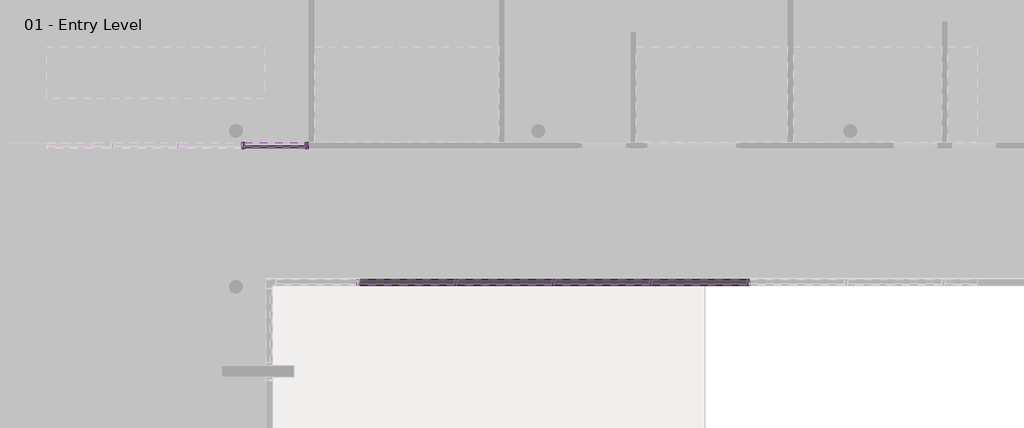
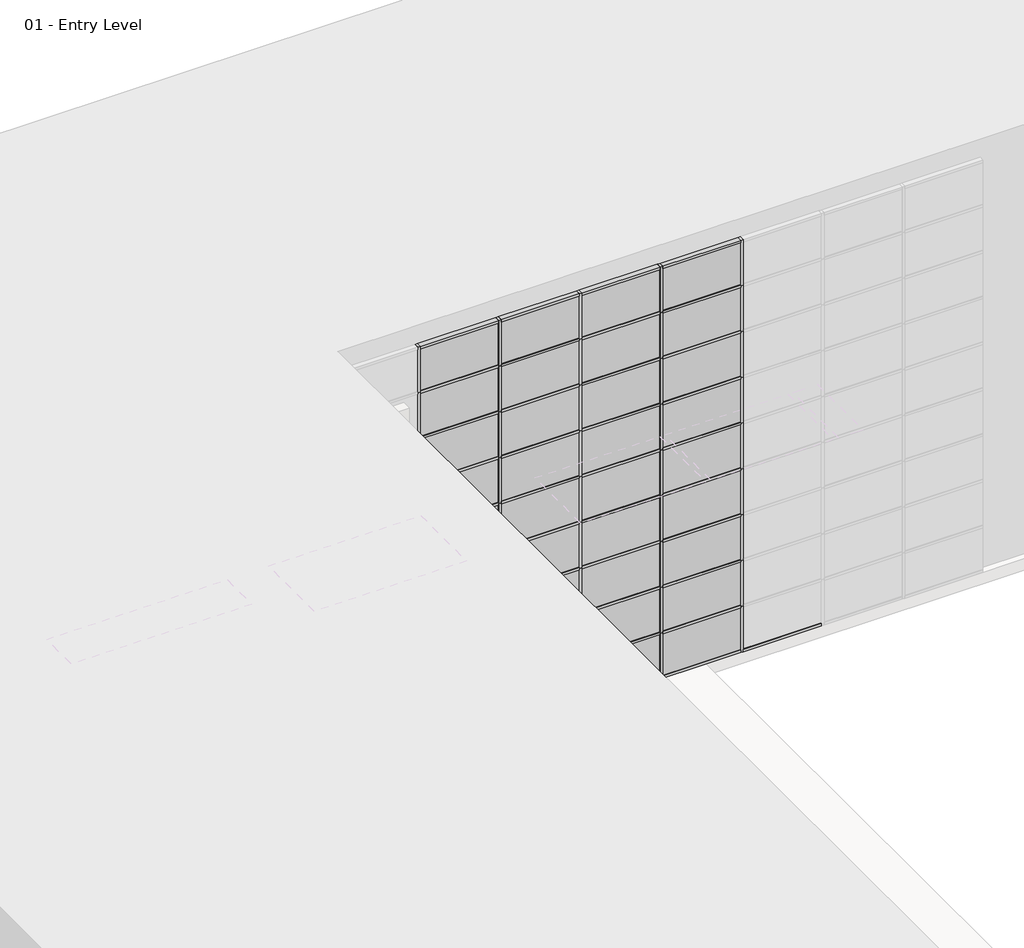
# One storey, part 26 of 34: 90 members, 38 plates.
"""IFC4 building model written with IfcOpenShell, lengths in millimetres."""

from ifc_helpers import new_model, si_unit, origin, place, context, project, spatial, transform, mapped, element, save
from components import member_2b49869a, member_18e22e2d, member_9193c932, member_391b434c, member_9e90ae50, member_6186cc23, member_5d67b9fc, member_c327c56d, member_a50b3cda, member_e7b2e991, member_547128e5, member_76223ac8, system_panel_glazed_1b9d6098, system_panel_glazed_70da479d, system_panel_glazed_f95bfe21, system_panel_glazed_7f2d8600

model = new_model("IFC4")

# Units and contexts
model_context = context("Model", 3, world=origin())
ifc_project = project(units=[si_unit("LENGTHUNIT", "METRE", prefix="MILLI")], contexts=[model_context])

# Site, building, storey
site = spatial("IfcSite", under=ifc_project)
building = spatial("IfcBuilding", under=site)
storey = spatial("IfcBuildingStorey", under=building, Name="01 - Entry Level", Elevation=0.0)

# Members
placement = place(None, origin())
member_shape = member_2b49869a(model_context)
element("IfcMember", 1, ObjectType="Rectangular Mullion : 2.5\" x 5\" rectangular", at=placement, inside=storey, context=model_context, shape_type="MappedRepresentation", body=[
    mapped(member_shape, transform((19038.2207476, 42751.3, 9753.6), x_axis=(1.0, 0.0, 0.0), y_axis=(0.0, -1.0, 0.0), z_axis=(0.0, 0.0, -1.0))),
])
element("IfcMember", 2, ObjectType="Rectangular Mullion : 2.5\" x 5\" rectangular", at=placement, inside=storey, context=model_context, shape_type="MappedRepresentation", body=[
    mapped(member_shape, transform((21070.2207476, 42751.3, 9753.6), x_axis=(1.0, 0.0, 0.0), y_axis=(0.0, -1.0, 0.0), z_axis=(0.0, 0.0, -1.0))),
])
element("IfcMember", 3, ObjectType="Rectangular Mullion : 2.5\" x 5\" rectangular", at=placement, inside=storey, context=model_context, shape_type="MappedRepresentation", body=[
    mapped(member_shape, transform((23102.2207476, 42751.3, 9753.6), x_axis=(1.0, 0.0, 0.0), y_axis=(0.0, -1.0, 0.0), z_axis=(0.0, 0.0, -1.0))),
])
element("IfcMember", 4, ObjectType="Rectangular Mullion : 2.5\" x 5\" rectangular", at=placement, inside=storey, context=model_context, shape_type="MappedRepresentation", body=[
    mapped(member_shape, transform((25134.2207476, 42751.3, 9753.6), x_axis=(1.0, 0.0, 0.0), y_axis=(0.0, -1.0, 0.0), z_axis=(0.0, 0.0, -1.0))),
])
element("IfcMember", 5, ObjectType="Rectangular Mullion : 2.5\" x 5\" rectangular", at=placement, inside=storey, context=model_context, shape_type="MappedRepresentation", body=[
    mapped(member_shape, transform((27166.2207476, 42751.3, 9753.6), x_axis=(1.0, 0.0, 0.0), y_axis=(0.0, -1.0, 0.0), z_axis=(0.0, 0.0, -1.0))),
])
member_2_shape = member_18e22e2d(model_context)
element("IfcMember", 6, ObjectType="Rectangular Mullion : 2.5\" x 5\" rectangular", at=placement, inside=storey, context=model_context, shape_type="MappedRepresentation", body=[
    mapped(member_2_shape, transform((16637.9207476, 45608.8, 2438.4), x_axis=(-1.0, 0.0, 0.0), y_axis=(0.0, 1.0, 0.0), z_axis=(0.0, 0.0, -1.0))),
])
member_3_shape = member_9193c932(model_context)
element("IfcMember", 7, ObjectType="Rectangular Mullion : 2.5\" x 5\" rectangular", at=placement, inside=storey, context=model_context, shape_type="MappedRepresentation", body=[
    mapped(member_3_shape, transform((17996.8207476, 45608.8, 3403.6), x_axis=(1.0, 0.0, 0.0), y_axis=(0.0, 1.0, 0.0), z_axis=(0.0, 0.0, 1.0))),
])
member_4_shape = member_391b434c(model_context)
element("IfcMember", 8, ObjectType="Rectangular Mullion : 2.5\" x 5\" rectangular", at=placement, inside=storey, context=model_context, shape_type="MappedRepresentation", body=[
    mapped(member_4_shape, transform((21038.4707476, 42751.3, 10972.8), x_axis=(0.0, 0.0, 1.0), y_axis=(0.0, -1.0, 0.0), z_axis=(1.0, 0.0, 0.0))),
])
element("IfcMember", 9, ObjectType="Rectangular Mullion : 2.5\" x 5\" rectangular", at=placement, inside=storey, context=model_context, shape_type="MappedRepresentation", body=[
    mapped(member_4_shape, transform((23070.4707476, 42751.3, 10972.8), x_axis=(0.0, 0.0, 1.0), y_axis=(0.0, -1.0, 0.0), z_axis=(1.0, 0.0, 0.0))),
])
element("IfcMember", 10, ObjectType="Rectangular Mullion : 2.5\" x 5\" rectangular", at=placement, inside=storey, context=model_context, shape_type="MappedRepresentation", body=[
    mapped(member_4_shape, transform((25102.4707476, 42751.3, 10972.8), x_axis=(0.0, 0.0, 1.0), y_axis=(0.0, -1.0, 0.0), z_axis=(1.0, 0.0, 0.0))),
])
element("IfcMember", 11, ObjectType="Rectangular Mullion : 2.5\" x 5\" rectangular", at=placement, inside=storey, context=model_context, shape_type="MappedRepresentation", body=[
    mapped(member_4_shape, transform((27134.4707476, 42751.3, 10972.8), x_axis=(0.0, 0.0, 1.0), y_axis=(0.0, -1.0, 0.0), z_axis=(1.0, 0.0, 0.0))),
])
element("IfcMember", 12, ObjectType="Rectangular Mullion : 2.5\" x 5\" rectangular", at=placement, inside=storey, context=model_context, shape_type="MappedRepresentation", body=[
    mapped(member_4_shape, transform((21101.9707476, 42751.3, 0.0), x_axis=(0.0, 0.0, -1.0), y_axis=(0.0, -1.0, 0.0), z_axis=(-1.0, 0.0, 0.0))),
])
element("IfcMember", 13, ObjectType="Rectangular Mullion : 2.5\" x 5\" rectangular", at=placement, inside=storey, context=model_context, shape_type="MappedRepresentation", body=[
    mapped(member_4_shape, transform((23133.9707476, 42751.3, 0.0), x_axis=(0.0, 0.0, -1.0), y_axis=(0.0, -1.0, 0.0), z_axis=(-1.0, 0.0, 0.0))),
])
element("IfcMember", 14, ObjectType="Rectangular Mullion : 2.5\" x 5\" rectangular", at=placement, inside=storey, context=model_context, shape_type="MappedRepresentation", body=[
    mapped(member_4_shape, transform((25165.9707476, 42751.3, 0.0), x_axis=(0.0, 0.0, -1.0), y_axis=(0.0, -1.0, 0.0), z_axis=(-1.0, 0.0, 0.0))),
])
element("IfcMember", 15, ObjectType="Rectangular Mullion : 2.5\" x 5\" rectangular", at=placement, inside=storey, context=model_context, shape_type="MappedRepresentation", body=[
    mapped(member_4_shape, transform((27197.9707476, 42751.3, 0.0), x_axis=(0.0, 0.0, -1.0), y_axis=(0.0, -1.0, 0.0), z_axis=(-1.0, 0.0, 0.0))),
])
member_5_shape = member_9e90ae50(model_context)
element("IfcMember", 16, ObjectType="Rectangular Mullion : 2.5\" x 5\" rectangular", at=placement, inside=storey, context=model_context, shape_type="MappedRepresentation", body=[
    mapped(member_5_shape, transform((21038.4707476, 42751.3, 1219.2), x_axis=(0.0, 0.0, 1.0), y_axis=(0.0, -1.0, 0.0), z_axis=(1.0, 0.0, 0.0))),
])
element("IfcMember", 17, ObjectType="Rectangular Mullion : 2.5\" x 5\" rectangular", at=placement, inside=storey, context=model_context, shape_type="MappedRepresentation", body=[
    mapped(member_5_shape, transform((23070.4707476, 42751.3, 1219.2), x_axis=(0.0, 0.0, 1.0), y_axis=(0.0, -1.0, 0.0), z_axis=(1.0, 0.0, 0.0))),
])
element("IfcMember", 18, ObjectType="Rectangular Mullion : 2.5\" x 5\" rectangular", at=placement, inside=storey, context=model_context, shape_type="MappedRepresentation", body=[
    mapped(member_5_shape, transform((25102.4707476, 42751.3, 1219.2), x_axis=(0.0, 0.0, 1.0), y_axis=(0.0, -1.0, 0.0), z_axis=(1.0, 0.0, 0.0))),
])
element("IfcMember", 19, ObjectType="Rectangular Mullion : 2.5\" x 5\" rectangular", at=placement, inside=storey, context=model_context, shape_type="MappedRepresentation", body=[
    mapped(member_5_shape, transform((27134.4707476, 42751.3, 1219.2), x_axis=(0.0, 0.0, 1.0), y_axis=(0.0, -1.0, 0.0), z_axis=(1.0, 0.0, 0.0))),
])
element("IfcMember", 20, ObjectType="Rectangular Mullion : 2.5\" x 5\" rectangular", at=placement, inside=storey, context=model_context, shape_type="MappedRepresentation", body=[
    mapped(member_5_shape, transform((21038.4707476, 42751.3, 2438.4), x_axis=(0.0, 0.0, 1.0), y_axis=(0.0, -1.0, 0.0), z_axis=(1.0, 0.0, 0.0))),
])
element("IfcMember", 21, ObjectType="Rectangular Mullion : 2.5\" x 5\" rectangular", at=placement, inside=storey, context=model_context, shape_type="MappedRepresentation", body=[
    mapped(member_5_shape, transform((23070.4707476, 42751.3, 2438.4), x_axis=(0.0, 0.0, 1.0), y_axis=(0.0, -1.0, 0.0), z_axis=(1.0, 0.0, 0.0))),
])
element("IfcMember", 22, ObjectType="Rectangular Mullion : 2.5\" x 5\" rectangular", at=placement, inside=storey, context=model_context, shape_type="MappedRepresentation", body=[
    mapped(member_5_shape, transform((25102.4707476, 42751.3, 2438.4), x_axis=(0.0, 0.0, 1.0), y_axis=(0.0, -1.0, 0.0), z_axis=(1.0, 0.0, 0.0))),
])
element("IfcMember", 23, ObjectType="Rectangular Mullion : 2.5\" x 5\" rectangular", at=placement, inside=storey, context=model_context, shape_type="MappedRepresentation", body=[
    mapped(member_5_shape, transform((27134.4707476, 42751.3, 2438.4), x_axis=(0.0, 0.0, 1.0), y_axis=(0.0, -1.0, 0.0), z_axis=(1.0, 0.0, 0.0))),
])
element("IfcMember", 24, ObjectType="Rectangular Mullion : 2.5\" x 5\" rectangular", at=placement, inside=storey, context=model_context, shape_type="MappedRepresentation", body=[
    mapped(member_5_shape, transform((21038.4707476, 42751.3, 3657.6), x_axis=(0.0, 0.0, 1.0), y_axis=(0.0, -1.0, 0.0), z_axis=(1.0, 0.0, 0.0))),
])
element("IfcMember", 25, ObjectType="Rectangular Mullion : 2.5\" x 5\" rectangular", at=placement, inside=storey, context=model_context, shape_type="MappedRepresentation", body=[
    mapped(member_5_shape, transform((23070.4707476, 42751.3, 3657.6), x_axis=(0.0, 0.0, 1.0), y_axis=(0.0, -1.0, 0.0), z_axis=(1.0, 0.0, 0.0))),
])
element("IfcMember", 26, ObjectType="Rectangular Mullion : 2.5\" x 5\" rectangular", at=placement, inside=storey, context=model_context, shape_type="MappedRepresentation", body=[
    mapped(member_5_shape, transform((25102.4707476, 42751.3, 3657.6), x_axis=(0.0, 0.0, 1.0), y_axis=(0.0, -1.0, 0.0), z_axis=(1.0, 0.0, 0.0))),
])
element("IfcMember", 27, ObjectType="Rectangular Mullion : 2.5\" x 5\" rectangular", at=placement, inside=storey, context=model_context, shape_type="MappedRepresentation", body=[
    mapped(member_5_shape, transform((27134.4707476, 42751.3, 3657.6), x_axis=(0.0, 0.0, 1.0), y_axis=(0.0, -1.0, 0.0), z_axis=(1.0, 0.0, 0.0))),
])
element("IfcMember", 28, ObjectType="Rectangular Mullion : 2.5\" x 5\" rectangular", at=placement, inside=storey, context=model_context, shape_type="MappedRepresentation", body=[
    mapped(member_5_shape, transform((21038.4707476, 42751.3, 4876.8), x_axis=(0.0, 0.0, 1.0), y_axis=(0.0, -1.0, 0.0), z_axis=(1.0, 0.0, 0.0))),
])
element("IfcMember", 29, ObjectType="Rectangular Mullion : 2.5\" x 5\" rectangular", at=placement, inside=storey, context=model_context, shape_type="MappedRepresentation", body=[
    mapped(member_5_shape, transform((23070.4707476, 42751.3, 4876.8), x_axis=(0.0, 0.0, 1.0), y_axis=(0.0, -1.0, 0.0), z_axis=(1.0, 0.0, 0.0))),
])
element("IfcMember", 30, ObjectType="Rectangular Mullion : 2.5\" x 5\" rectangular", at=placement, inside=storey, context=model_context, shape_type="MappedRepresentation", body=[
    mapped(member_5_shape, transform((25102.4707476, 42751.3, 4876.8), x_axis=(0.0, 0.0, 1.0), y_axis=(0.0, -1.0, 0.0), z_axis=(1.0, 0.0, 0.0))),
])
element("IfcMember", 31, ObjectType="Rectangular Mullion : 2.5\" x 5\" rectangular", at=placement, inside=storey, context=model_context, shape_type="MappedRepresentation", body=[
    mapped(member_5_shape, transform((27134.4707476, 42751.3, 4876.8), x_axis=(0.0, 0.0, 1.0), y_axis=(0.0, -1.0, 0.0), z_axis=(1.0, 0.0, 0.0))),
])
element("IfcMember", 32, ObjectType="Rectangular Mullion : 2.5\" x 5\" rectangular", at=placement, inside=storey, context=model_context, shape_type="MappedRepresentation", body=[
    mapped(member_5_shape, transform((21038.4707476, 42751.3, 6096.0), x_axis=(0.0, 0.0, 1.0), y_axis=(0.0, -1.0, 0.0), z_axis=(1.0, 0.0, 0.0))),
])
element("IfcMember", 33, ObjectType="Rectangular Mullion : 2.5\" x 5\" rectangular", at=placement, inside=storey, context=model_context, shape_type="MappedRepresentation", body=[
    mapped(member_5_shape, transform((23070.4707476, 42751.3, 6096.0), x_axis=(0.0, 0.0, 1.0), y_axis=(0.0, -1.0, 0.0), z_axis=(1.0, 0.0, 0.0))),
])
element("IfcMember", 34, ObjectType="Rectangular Mullion : 2.5\" x 5\" rectangular", at=placement, inside=storey, context=model_context, shape_type="MappedRepresentation", body=[
    mapped(member_5_shape, transform((25102.4707476, 42751.3, 6096.0), x_axis=(0.0, 0.0, 1.0), y_axis=(0.0, -1.0, 0.0), z_axis=(1.0, 0.0, 0.0))),
])
element("IfcMember", 35, ObjectType="Rectangular Mullion : 2.5\" x 5\" rectangular", at=placement, inside=storey, context=model_context, shape_type="MappedRepresentation", body=[
    mapped(member_5_shape, transform((27134.4707476, 42751.3, 6096.0), x_axis=(0.0, 0.0, 1.0), y_axis=(0.0, -1.0, 0.0), z_axis=(1.0, 0.0, 0.0))),
])
element("IfcMember", 36, ObjectType="Rectangular Mullion : 2.5\" x 5\" rectangular", at=placement, inside=storey, context=model_context, shape_type="MappedRepresentation", body=[
    mapped(member_5_shape, transform((21038.4707476, 42751.3, 7315.2), x_axis=(0.0, 0.0, 1.0), y_axis=(0.0, -1.0, 0.0), z_axis=(1.0, 0.0, 0.0))),
])
element("IfcMember", 37, ObjectType="Rectangular Mullion : 2.5\" x 5\" rectangular", at=placement, inside=storey, context=model_context, shape_type="MappedRepresentation", body=[
    mapped(member_5_shape, transform((23070.4707476, 42751.3, 7315.2), x_axis=(0.0, 0.0, 1.0), y_axis=(0.0, -1.0, 0.0), z_axis=(1.0, 0.0, 0.0))),
])
element("IfcMember", 38, ObjectType="Rectangular Mullion : 2.5\" x 5\" rectangular", at=placement, inside=storey, context=model_context, shape_type="MappedRepresentation", body=[
    mapped(member_5_shape, transform((25102.4707476, 42751.3, 7315.2), x_axis=(0.0, 0.0, 1.0), y_axis=(0.0, -1.0, 0.0), z_axis=(1.0, 0.0, 0.0))),
])
element("IfcMember", 39, ObjectType="Rectangular Mullion : 2.5\" x 5\" rectangular", at=placement, inside=storey, context=model_context, shape_type="MappedRepresentation", body=[
    mapped(member_5_shape, transform((27134.4707476, 42751.3, 7315.2), x_axis=(0.0, 0.0, 1.0), y_axis=(0.0, -1.0, 0.0), z_axis=(1.0, 0.0, 0.0))),
])
element("IfcMember", 40, ObjectType="Rectangular Mullion : 2.5\" x 5\" rectangular", at=placement, inside=storey, context=model_context, shape_type="MappedRepresentation", body=[
    mapped(member_5_shape, transform((21038.4707476, 42751.3, 8534.4), x_axis=(0.0, 0.0, 1.0), y_axis=(0.0, -1.0, 0.0), z_axis=(1.0, 0.0, 0.0))),
])
element("IfcMember", 41, ObjectType="Rectangular Mullion : 2.5\" x 5\" rectangular", at=placement, inside=storey, context=model_context, shape_type="MappedRepresentation", body=[
    mapped(member_5_shape, transform((23070.4707476, 42751.3, 8534.4), x_axis=(0.0, 0.0, 1.0), y_axis=(0.0, -1.0, 0.0), z_axis=(1.0, 0.0, 0.0))),
])
element("IfcMember", 42, ObjectType="Rectangular Mullion : 2.5\" x 5\" rectangular", at=placement, inside=storey, context=model_context, shape_type="MappedRepresentation", body=[
    mapped(member_5_shape, transform((25102.4707476, 42751.3, 8534.4), x_axis=(0.0, 0.0, 1.0), y_axis=(0.0, -1.0, 0.0), z_axis=(1.0, 0.0, 0.0))),
])
element("IfcMember", 43, ObjectType="Rectangular Mullion : 2.5\" x 5\" rectangular", at=placement, inside=storey, context=model_context, shape_type="MappedRepresentation", body=[
    mapped(member_5_shape, transform((27134.4707476, 42751.3, 8534.4), x_axis=(0.0, 0.0, 1.0), y_axis=(0.0, -1.0, 0.0), z_axis=(1.0, 0.0, 0.0))),
])
element("IfcMember", 44, ObjectType="Rectangular Mullion : 2.5\" x 5\" rectangular", at=placement, inside=storey, context=model_context, shape_type="MappedRepresentation", body=[
    mapped(member_5_shape, transform((21038.4707476, 42751.3, 9753.6), x_axis=(0.0, 0.0, 1.0), y_axis=(0.0, -1.0, 0.0), z_axis=(1.0, 0.0, 0.0))),
])
element("IfcMember", 45, ObjectType="Rectangular Mullion : 2.5\" x 5\" rectangular", at=placement, inside=storey, context=model_context, shape_type="MappedRepresentation", body=[
    mapped(member_5_shape, transform((23070.4707476, 42751.3, 9753.6), x_axis=(0.0, 0.0, 1.0), y_axis=(0.0, -1.0, 0.0), z_axis=(1.0, 0.0, 0.0))),
])
element("IfcMember", 46, ObjectType="Rectangular Mullion : 2.5\" x 5\" rectangular", at=placement, inside=storey, context=model_context, shape_type="MappedRepresentation", body=[
    mapped(member_5_shape, transform((25102.4707476, 42751.3, 9753.6), x_axis=(0.0, 0.0, 1.0), y_axis=(0.0, -1.0, 0.0), z_axis=(1.0, 0.0, 0.0))),
])
element("IfcMember", 47, ObjectType="Rectangular Mullion : 2.5\" x 5\" rectangular", at=placement, inside=storey, context=model_context, shape_type="MappedRepresentation", body=[
    mapped(member_5_shape, transform((27134.4707476, 42751.3, 9753.6), x_axis=(0.0, 0.0, 1.0), y_axis=(0.0, -1.0, 0.0), z_axis=(1.0, 0.0, 0.0))),
])
element("IfcMember", 48, ObjectType="Rectangular Mullion : 2.5\" x 5\" rectangular", at=placement, inside=storey, context=model_context, shape_type="MappedRepresentation", body=[
    mapped(member_shape, transform((21070.2207476, 42751.3, 0.0), x_axis=(1.0, 0.0, 0.0), y_axis=(0.0, -1.0, 0.0), z_axis=(0.0, 0.0, -1.0))),
])
element("IfcMember", 49, ObjectType="Rectangular Mullion : 2.5\" x 5\" rectangular", at=placement, inside=storey, context=model_context, shape_type="MappedRepresentation", body=[
    mapped(member_shape, transform((23102.2207476, 42751.3, 0.0), x_axis=(1.0, 0.0, 0.0), y_axis=(0.0, -1.0, 0.0), z_axis=(0.0, 0.0, -1.0))),
])
element("IfcMember", 50, ObjectType="Rectangular Mullion : 2.5\" x 5\" rectangular", at=placement, inside=storey, context=model_context, shape_type="MappedRepresentation", body=[
    mapped(member_shape, transform((25134.2207476, 42751.3, 0.0), x_axis=(1.0, 0.0, 0.0), y_axis=(0.0, -1.0, 0.0), z_axis=(0.0, 0.0, -1.0))),
])
element("IfcMember", 51, ObjectType="Rectangular Mullion : 2.5\" x 5\" rectangular", at=placement, inside=storey, context=model_context, shape_type="MappedRepresentation", body=[
    mapped(member_shape, transform((27166.2207476, 42751.3, 0.0), x_axis=(1.0, 0.0, 0.0), y_axis=(0.0, -1.0, 0.0), z_axis=(0.0, 0.0, -1.0))),
])
element("IfcMember", 52, ObjectType="Rectangular Mullion : 2.5\" x 5\" rectangular", at=placement, inside=storey, context=model_context, shape_type="MappedRepresentation", body=[
    mapped(member_shape, transform((21070.2207476, 42751.3, 1219.2), x_axis=(1.0, 0.0, 0.0), y_axis=(0.0, -1.0, 0.0), z_axis=(0.0, 0.0, -1.0))),
])
element("IfcMember", 53, ObjectType="Rectangular Mullion : 2.5\" x 5\" rectangular", at=placement, inside=storey, context=model_context, shape_type="MappedRepresentation", body=[
    mapped(member_shape, transform((23102.2207476, 42751.3, 1219.2), x_axis=(1.0, 0.0, 0.0), y_axis=(0.0, -1.0, 0.0), z_axis=(0.0, 0.0, -1.0))),
])
element("IfcMember", 54, ObjectType="Rectangular Mullion : 2.5\" x 5\" rectangular", at=placement, inside=storey, context=model_context, shape_type="MappedRepresentation", body=[
    mapped(member_shape, transform((25134.2207476, 42751.3, 1219.2), x_axis=(1.0, 0.0, 0.0), y_axis=(0.0, -1.0, 0.0), z_axis=(0.0, 0.0, -1.0))),
])
element("IfcMember", 55, ObjectType="Rectangular Mullion : 2.5\" x 5\" rectangular", at=placement, inside=storey, context=model_context, shape_type="MappedRepresentation", body=[
    mapped(member_shape, transform((27166.2207476, 42751.3, 1219.2), x_axis=(1.0, 0.0, 0.0), y_axis=(0.0, -1.0, 0.0), z_axis=(0.0, 0.0, -1.0))),
])
element("IfcMember", 56, ObjectType="Rectangular Mullion : 2.5\" x 5\" rectangular", at=placement, inside=storey, context=model_context, shape_type="MappedRepresentation", body=[
    mapped(member_shape, transform((21070.2207476, 42751.3, 2438.4), x_axis=(1.0, 0.0, 0.0), y_axis=(0.0, -1.0, 0.0), z_axis=(0.0, 0.0, -1.0))),
])
element("IfcMember", 57, ObjectType="Rectangular Mullion : 2.5\" x 5\" rectangular", at=placement, inside=storey, context=model_context, shape_type="MappedRepresentation", body=[
    mapped(member_shape, transform((23102.2207476, 42751.3, 2438.4), x_axis=(1.0, 0.0, 0.0), y_axis=(0.0, -1.0, 0.0), z_axis=(0.0, 0.0, -1.0))),
])
element("IfcMember", 58, ObjectType="Rectangular Mullion : 2.5\" x 5\" rectangular", at=placement, inside=storey, context=model_context, shape_type="MappedRepresentation", body=[
    mapped(member_shape, transform((25134.2207476, 42751.3, 2438.4), x_axis=(1.0, 0.0, 0.0), y_axis=(0.0, -1.0, 0.0), z_axis=(0.0, 0.0, -1.0))),
])
element("IfcMember", 59, ObjectType="Rectangular Mullion : 2.5\" x 5\" rectangular", at=placement, inside=storey, context=model_context, shape_type="MappedRepresentation", body=[
    mapped(member_shape, transform((27166.2207476, 42751.3, 2438.4), x_axis=(1.0, 0.0, 0.0), y_axis=(0.0, -1.0, 0.0), z_axis=(0.0, 0.0, -1.0))),
])
element("IfcMember", 60, ObjectType="Rectangular Mullion : 2.5\" x 5\" rectangular", at=placement, inside=storey, context=model_context, shape_type="MappedRepresentation", body=[
    mapped(member_shape, transform((21070.2207476, 42751.3, 3657.6), x_axis=(1.0, 0.0, 0.0), y_axis=(0.0, -1.0, 0.0), z_axis=(0.0, 0.0, -1.0))),
])
element("IfcMember", 61, ObjectType="Rectangular Mullion : 2.5\" x 5\" rectangular", at=placement, inside=storey, context=model_context, shape_type="MappedRepresentation", body=[
    mapped(member_shape, transform((23102.2207476, 42751.3, 3657.6), x_axis=(1.0, 0.0, 0.0), y_axis=(0.0, -1.0, 0.0), z_axis=(0.0, 0.0, -1.0))),
])
element("IfcMember", 62, ObjectType="Rectangular Mullion : 2.5\" x 5\" rectangular", at=placement, inside=storey, context=model_context, shape_type="MappedRepresentation", body=[
    mapped(member_shape, transform((25134.2207476, 42751.3, 3657.6), x_axis=(1.0, 0.0, 0.0), y_axis=(0.0, -1.0, 0.0), z_axis=(0.0, 0.0, -1.0))),
])
element("IfcMember", 63, ObjectType="Rectangular Mullion : 2.5\" x 5\" rectangular", at=placement, inside=storey, context=model_context, shape_type="MappedRepresentation", body=[
    mapped(member_shape, transform((27166.2207476, 42751.3, 3657.6), x_axis=(1.0, 0.0, 0.0), y_axis=(0.0, -1.0, 0.0), z_axis=(0.0, 0.0, -1.0))),
])
element("IfcMember", 64, ObjectType="Rectangular Mullion : 2.5\" x 5\" rectangular", at=placement, inside=storey, context=model_context, shape_type="MappedRepresentation", body=[
    mapped(member_shape, transform((21070.2207476, 42751.3, 4876.8), x_axis=(1.0, 0.0, 0.0), y_axis=(0.0, -1.0, 0.0), z_axis=(0.0, 0.0, -1.0))),
])
element("IfcMember", 65, ObjectType="Rectangular Mullion : 2.5\" x 5\" rectangular", at=placement, inside=storey, context=model_context, shape_type="MappedRepresentation", body=[
    mapped(member_shape, transform((23102.2207476, 42751.3, 4876.8), x_axis=(1.0, 0.0, 0.0), y_axis=(0.0, -1.0, 0.0), z_axis=(0.0, 0.0, -1.0))),
])
element("IfcMember", 66, ObjectType="Rectangular Mullion : 2.5\" x 5\" rectangular", at=placement, inside=storey, context=model_context, shape_type="MappedRepresentation", body=[
    mapped(member_shape, transform((25134.2207476, 42751.3, 4876.8), x_axis=(1.0, 0.0, 0.0), y_axis=(0.0, -1.0, 0.0), z_axis=(0.0, 0.0, -1.0))),
])
element("IfcMember", 67, ObjectType="Rectangular Mullion : 2.5\" x 5\" rectangular", at=placement, inside=storey, context=model_context, shape_type="MappedRepresentation", body=[
    mapped(member_shape, transform((27166.2207476, 42751.3, 4876.8), x_axis=(1.0, 0.0, 0.0), y_axis=(0.0, -1.0, 0.0), z_axis=(0.0, 0.0, -1.0))),
])
element("IfcMember", 68, ObjectType="Rectangular Mullion : 2.5\" x 5\" rectangular", at=placement, inside=storey, context=model_context, shape_type="MappedRepresentation", body=[
    mapped(member_shape, transform((19038.2207476, 42751.3, 6096.0), x_axis=(1.0, 0.0, 0.0), y_axis=(0.0, -1.0, 0.0), z_axis=(0.0, 0.0, -1.0))),
])
element("IfcMember", 69, ObjectType="Rectangular Mullion : 2.5\" x 5\" rectangular", at=placement, inside=storey, context=model_context, shape_type="MappedRepresentation", body=[
    mapped(member_shape, transform((21070.2207476, 42751.3, 6096.0), x_axis=(1.0, 0.0, 0.0), y_axis=(0.0, -1.0, 0.0), z_axis=(0.0, 0.0, -1.0))),
])
element("IfcMember", 70, ObjectType="Rectangular Mullion : 2.5\" x 5\" rectangular", at=placement, inside=storey, context=model_context, shape_type="MappedRepresentation", body=[
    mapped(member_shape, transform((23102.2207476, 42751.3, 6096.0), x_axis=(1.0, 0.0, 0.0), y_axis=(0.0, -1.0, 0.0), z_axis=(0.0, 0.0, -1.0))),
])
element("IfcMember", 71, ObjectType="Rectangular Mullion : 2.5\" x 5\" rectangular", at=placement, inside=storey, context=model_context, shape_type="MappedRepresentation", body=[
    mapped(member_shape, transform((25134.2207476, 42751.3, 6096.0), x_axis=(1.0, 0.0, 0.0), y_axis=(0.0, -1.0, 0.0), z_axis=(0.0, 0.0, -1.0))),
])
element("IfcMember", 72, ObjectType="Rectangular Mullion : 2.5\" x 5\" rectangular", at=placement, inside=storey, context=model_context, shape_type="MappedRepresentation", body=[
    mapped(member_shape, transform((27166.2207476, 42751.3, 6096.0), x_axis=(1.0, 0.0, 0.0), y_axis=(0.0, -1.0, 0.0), z_axis=(0.0, 0.0, -1.0))),
])
element("IfcMember", 73, ObjectType="Rectangular Mullion : 2.5\" x 5\" rectangular", at=placement, inside=storey, context=model_context, shape_type="MappedRepresentation", body=[
    mapped(member_shape, transform((19038.2207476, 42751.3, 7315.2), x_axis=(1.0, 0.0, 0.0), y_axis=(0.0, -1.0, 0.0), z_axis=(0.0, 0.0, -1.0))),
])
element("IfcMember", 74, ObjectType="Rectangular Mullion : 2.5\" x 5\" rectangular", at=placement, inside=storey, context=model_context, shape_type="MappedRepresentation", body=[
    mapped(member_shape, transform((21070.2207476, 42751.3, 7315.2), x_axis=(1.0, 0.0, 0.0), y_axis=(0.0, -1.0, 0.0), z_axis=(0.0, 0.0, -1.0))),
])
element("IfcMember", 75, ObjectType="Rectangular Mullion : 2.5\" x 5\" rectangular", at=placement, inside=storey, context=model_context, shape_type="MappedRepresentation", body=[
    mapped(member_shape, transform((23102.2207476, 42751.3, 7315.2), x_axis=(1.0, 0.0, 0.0), y_axis=(0.0, -1.0, 0.0), z_axis=(0.0, 0.0, -1.0))),
])
element("IfcMember", 76, ObjectType="Rectangular Mullion : 2.5\" x 5\" rectangular", at=placement, inside=storey, context=model_context, shape_type="MappedRepresentation", body=[
    mapped(member_shape, transform((25134.2207476, 42751.3, 7315.2), x_axis=(1.0, 0.0, 0.0), y_axis=(0.0, -1.0, 0.0), z_axis=(0.0, 0.0, -1.0))),
])
element("IfcMember", 77, ObjectType="Rectangular Mullion : 2.5\" x 5\" rectangular", at=placement, inside=storey, context=model_context, shape_type="MappedRepresentation", body=[
    mapped(member_shape, transform((27166.2207476, 42751.3, 7315.2), x_axis=(1.0, 0.0, 0.0), y_axis=(0.0, -1.0, 0.0), z_axis=(0.0, 0.0, -1.0))),
])
element("IfcMember", 78, ObjectType="Rectangular Mullion : 2.5\" x 5\" rectangular", at=placement, inside=storey, context=model_context, shape_type="MappedRepresentation", body=[
    mapped(member_shape, transform((19038.2207476, 42751.3, 8534.4), x_axis=(1.0, 0.0, 0.0), y_axis=(0.0, -1.0, 0.0), z_axis=(0.0, 0.0, -1.0))),
])
element("IfcMember", 79, ObjectType="Rectangular Mullion : 2.5\" x 5\" rectangular", at=placement, inside=storey, context=model_context, shape_type="MappedRepresentation", body=[
    mapped(member_shape, transform((21070.2207476, 42751.3, 8534.4), x_axis=(1.0, 0.0, 0.0), y_axis=(0.0, -1.0, 0.0), z_axis=(0.0, 0.0, -1.0))),
])
element("IfcMember", 80, ObjectType="Rectangular Mullion : 2.5\" x 5\" rectangular", at=placement, inside=storey, context=model_context, shape_type="MappedRepresentation", body=[
    mapped(member_shape, transform((23102.2207476, 42751.3, 8534.4), x_axis=(1.0, 0.0, 0.0), y_axis=(0.0, -1.0, 0.0), z_axis=(0.0, 0.0, -1.0))),
])
element("IfcMember", 81, ObjectType="Rectangular Mullion : 2.5\" x 5\" rectangular", at=placement, inside=storey, context=model_context, shape_type="MappedRepresentation", body=[
    mapped(member_shape, transform((25134.2207476, 42751.3, 8534.4), x_axis=(1.0, 0.0, 0.0), y_axis=(0.0, -1.0, 0.0), z_axis=(0.0, 0.0, -1.0))),
])
element("IfcMember", 82, ObjectType="Rectangular Mullion : 2.5\" x 5\" rectangular", at=placement, inside=storey, context=model_context, shape_type="MappedRepresentation", body=[
    mapped(member_shape, transform((27166.2207476, 42751.3, 8534.4), x_axis=(1.0, 0.0, 0.0), y_axis=(0.0, -1.0, 0.0), z_axis=(0.0, 0.0, -1.0))),
])
member_6_shape = member_6186cc23(model_context)
element("IfcMember", 83, ObjectType="Rectangular Mullion : 2.5\" x 5\" rectangular", at=placement, inside=storey, context=model_context, shape_type="MappedRepresentation", body=[
    mapped(member_6_shape, transform((16637.9207476, 45608.8, 0.0), x_axis=(-1.0, 0.0, 0.0), y_axis=(0.0, 1.0, 0.0), z_axis=(0.0, 0.0, -1.0))),
])
member_7_shape = member_5d67b9fc(model_context)
element("IfcMember", 84, ObjectType="Rectangular Mullion : 2.5\" x 5\" rectangular", at=placement, inside=storey, context=model_context, shape_type="MappedRepresentation", body=[
    mapped(member_7_shape, transform((16637.9207476, 45608.8, 2165.35), x_axis=(-1.0, 0.0, 0.0), y_axis=(0.0, 1.0, 0.0), z_axis=(0.0, 0.0, -1.0))),
])
member_8_shape = member_c327c56d(model_context)
element("IfcMember", 85, ObjectType="Rectangular Mullion : 2.5\" x 5\" rectangular", at=placement, inside=storey, context=model_context, shape_type="MappedRepresentation", body=[
    mapped(member_8_shape, transform((17996.8207476, 45608.8, 2438.4), x_axis=(1.0, 0.0, 0.0), y_axis=(0.0, 1.0, 0.0), z_axis=(0.0, 0.0, 1.0))),
])
member_9_shape = member_a50b3cda(model_context)
element("IfcMember", 86, ObjectType="Rectangular Mullion : 2.5\" x 5\" rectangular", at=placement, inside=storey, context=model_context, shape_type="MappedRepresentation", body=[
    mapped(member_9_shape, transform((17996.8207476, 45608.8, 2165.35), x_axis=(1.0, 0.0, 0.0), y_axis=(0.0, 1.0, 0.0), z_axis=(0.0, 0.0, 1.0))),
])
member_10_shape = member_e7b2e991(model_context)
element("IfcMember", 87, ObjectType="Rectangular Mullion : 2.5\" x 5\" rectangular", at=placement, inside=storey, context=model_context, shape_type="MappedRepresentation", body=[
    mapped(member_10_shape, transform((16669.6707476, 45608.8, 3403.6), x_axis=(0.0, 0.0, 1.0), y_axis=(0.0, 1.0, 0.0), z_axis=(-1.0, 0.0, 0.0))),
])
element("IfcMember", 88, ObjectType="Rectangular Mullion : 2.5\" x 5\" rectangular", at=placement, inside=storey, context=model_context, shape_type="MappedRepresentation", body=[
    mapped(member_10_shape, transform((17933.3207476, 45608.8, 0.0), x_axis=(0.0, 0.0, -1.0), y_axis=(0.0, 1.0, 0.0), z_axis=(1.0, 0.0, 0.0))),
])
member_11_shape = member_547128e5(model_context)
element("IfcMember", 89, ObjectType="Rectangular Mullion : 2.5\" x 5\" rectangular", at=placement, inside=storey, context=model_context, shape_type="MappedRepresentation", body=[
    mapped(member_11_shape, transform((16606.1707476, 45608.8, 0.0), x_axis=(0.0, 0.0, -1.0), y_axis=(0.0, 1.0, 0.0), z_axis=(1.0, 0.0, 0.0))),
])
member_12_shape = member_76223ac8(model_context)
element("IfcMember", 90, ObjectType="Rectangular Mullion : 2.5\" x 5\" rectangular", at=placement, inside=storey, context=model_context, shape_type="MappedRepresentation", body=[
    mapped(member_12_shape, transform((16669.6707476, 45608.8, 2438.4), x_axis=(0.0, 0.0, 1.0), y_axis=(0.0, 1.0, 0.0), z_axis=(-1.0, 0.0, 0.0))),
])

# Plates
system_panel_glazed_shape = system_panel_glazed_1b9d6098(model_context)
element("IfcPlate", 91, ObjectType="System Panel : Glazed", at=placement, inside=storey, context=model_context, shape_type="MappedRepresentation", body=[
    mapped(system_panel_glazed_shape, transform((20054.2207476, 42751.3, 63.5), x_axis=(1.0, 0.0, 0.0), y_axis=(0.0, 1.0, 0.0), z_axis=(0.0, 0.0, 1.0))),
])
element("IfcPlate", 92, ObjectType="System Panel : Glazed", at=placement, inside=storey, context=model_context, shape_type="MappedRepresentation", body=[
    mapped(system_panel_glazed_shape, transform((22086.2207476, 42751.3, 63.5), x_axis=(1.0, 0.0, 0.0), y_axis=(0.0, 1.0, 0.0), z_axis=(0.0, 0.0, 1.0))),
])
element("IfcPlate", 93, ObjectType="System Panel : Glazed", at=placement, inside=storey, context=model_context, shape_type="MappedRepresentation", body=[
    mapped(system_panel_glazed_shape, transform((24118.2207476, 42751.3, 63.5), x_axis=(1.0, 0.0, 0.0), y_axis=(0.0, 1.0, 0.0), z_axis=(0.0, 0.0, 1.0))),
])
element("IfcPlate", 94, ObjectType="System Panel : Glazed", at=placement, inside=storey, context=model_context, shape_type="MappedRepresentation", body=[
    mapped(system_panel_glazed_shape, transform((26150.2207476, 42751.3, 63.5), x_axis=(1.0, 0.0, 0.0), y_axis=(0.0, 1.0, 0.0), z_axis=(0.0, 0.0, 1.0))),
])
element("IfcPlate", 95, ObjectType="System Panel : Glazed", at=placement, inside=storey, context=model_context, shape_type="MappedRepresentation", body=[
    mapped(system_panel_glazed_shape, transform((20054.2207476, 42751.3, 9785.35), x_axis=(1.0, 0.0, 0.0), y_axis=(0.0, 1.0, 0.0), z_axis=(0.0, 0.0, 1.0))),
])
element("IfcPlate", 96, ObjectType="System Panel : Glazed", at=placement, inside=storey, context=model_context, shape_type="MappedRepresentation", body=[
    mapped(system_panel_glazed_shape, transform((22086.2207476, 42751.3, 9785.35), x_axis=(1.0, 0.0, 0.0), y_axis=(0.0, 1.0, 0.0), z_axis=(0.0, 0.0, 1.0))),
])
element("IfcPlate", 97, ObjectType="System Panel : Glazed", at=placement, inside=storey, context=model_context, shape_type="MappedRepresentation", body=[
    mapped(system_panel_glazed_shape, transform((24118.2207476, 42751.3, 9785.35), x_axis=(1.0, 0.0, 0.0), y_axis=(0.0, 1.0, 0.0), z_axis=(0.0, 0.0, 1.0))),
])
element("IfcPlate", 98, ObjectType="System Panel : Glazed", at=placement, inside=storey, context=model_context, shape_type="MappedRepresentation", body=[
    mapped(system_panel_glazed_shape, transform((26150.2207476, 42751.3, 9785.35), x_axis=(1.0, 0.0, 0.0), y_axis=(0.0, 1.0, 0.0), z_axis=(0.0, 0.0, 1.0))),
])
system_panel_glazed_2_shape = system_panel_glazed_70da479d(model_context)
element("IfcPlate", 99, ObjectType="System Panel : Glazed", at=placement, inside=storey, context=model_context, shape_type="MappedRepresentation", body=[
    mapped(system_panel_glazed_2_shape, transform((20054.2207476, 42751.3, 1250.95), x_axis=(1.0, 0.0, 0.0), y_axis=(0.0, 1.0, 0.0), z_axis=(0.0, 0.0, 1.0))),
])
element("IfcPlate", 100, ObjectType="System Panel : Glazed", at=placement, inside=storey, context=model_context, shape_type="MappedRepresentation", body=[
    mapped(system_panel_glazed_2_shape, transform((22086.2207476, 42751.3, 1250.95), x_axis=(1.0, 0.0, 0.0), y_axis=(0.0, 1.0, 0.0), z_axis=(0.0, 0.0, 1.0))),
])
element("IfcPlate", 101, ObjectType="System Panel : Glazed", at=placement, inside=storey, context=model_context, shape_type="MappedRepresentation", body=[
    mapped(system_panel_glazed_2_shape, transform((24118.2207476, 42751.3, 1250.95), x_axis=(1.0, 0.0, 0.0), y_axis=(0.0, 1.0, 0.0), z_axis=(0.0, 0.0, 1.0))),
])
element("IfcPlate", 102, ObjectType="System Panel : Glazed", at=placement, inside=storey, context=model_context, shape_type="MappedRepresentation", body=[
    mapped(system_panel_glazed_2_shape, transform((26150.2207476, 42751.3, 1250.95), x_axis=(1.0, 0.0, 0.0), y_axis=(0.0, 1.0, 0.0), z_axis=(0.0, 0.0, 1.0))),
])
element("IfcPlate", 103, ObjectType="System Panel : Glazed", at=placement, inside=storey, context=model_context, shape_type="MappedRepresentation", body=[
    mapped(system_panel_glazed_2_shape, transform((20054.2207476, 42751.3, 2470.15), x_axis=(1.0, 0.0, 0.0), y_axis=(0.0, 1.0, 0.0), z_axis=(0.0, 0.0, 1.0))),
])
element("IfcPlate", 104, ObjectType="System Panel : Glazed", at=placement, inside=storey, context=model_context, shape_type="MappedRepresentation", body=[
    mapped(system_panel_glazed_2_shape, transform((22086.2207476, 42751.3, 2470.15), x_axis=(1.0, 0.0, 0.0), y_axis=(0.0, 1.0, 0.0), z_axis=(0.0, 0.0, 1.0))),
])
element("IfcPlate", 105, ObjectType="System Panel : Glazed", at=placement, inside=storey, context=model_context, shape_type="MappedRepresentation", body=[
    mapped(system_panel_glazed_2_shape, transform((24118.2207476, 42751.3, 2470.15), x_axis=(1.0, 0.0, 0.0), y_axis=(0.0, 1.0, 0.0), z_axis=(0.0, 0.0, 1.0))),
])
element("IfcPlate", 106, ObjectType="System Panel : Glazed", at=placement, inside=storey, context=model_context, shape_type="MappedRepresentation", body=[
    mapped(system_panel_glazed_2_shape, transform((26150.2207476, 42751.3, 2470.15), x_axis=(1.0, 0.0, 0.0), y_axis=(0.0, 1.0, 0.0), z_axis=(0.0, 0.0, 1.0))),
])
element("IfcPlate", 107, ObjectType="System Panel : Glazed", at=placement, inside=storey, context=model_context, shape_type="MappedRepresentation", body=[
    mapped(system_panel_glazed_2_shape, transform((20054.2207476, 42751.3, 3689.35), x_axis=(1.0, 0.0, 0.0), y_axis=(0.0, 1.0, 0.0), z_axis=(0.0, 0.0, 1.0))),
])
element("IfcPlate", 108, ObjectType="System Panel : Glazed", at=placement, inside=storey, context=model_context, shape_type="MappedRepresentation", body=[
    mapped(system_panel_glazed_2_shape, transform((22086.2207476, 42751.3, 3689.35), x_axis=(1.0, 0.0, 0.0), y_axis=(0.0, 1.0, 0.0), z_axis=(0.0, 0.0, 1.0))),
])
element("IfcPlate", 109, ObjectType="System Panel : Glazed", at=placement, inside=storey, context=model_context, shape_type="MappedRepresentation", body=[
    mapped(system_panel_glazed_2_shape, transform((24118.2207476, 42751.3, 3689.35), x_axis=(1.0, 0.0, 0.0), y_axis=(0.0, 1.0, 0.0), z_axis=(0.0, 0.0, 1.0))),
])
element("IfcPlate", 110, ObjectType="System Panel : Glazed", at=placement, inside=storey, context=model_context, shape_type="MappedRepresentation", body=[
    mapped(system_panel_glazed_2_shape, transform((26150.2207476, 42751.3, 3689.35), x_axis=(1.0, 0.0, 0.0), y_axis=(0.0, 1.0, 0.0), z_axis=(0.0, 0.0, 1.0))),
])
element("IfcPlate", 111, ObjectType="System Panel : Glazed", at=placement, inside=storey, context=model_context, shape_type="MappedRepresentation", body=[
    mapped(system_panel_glazed_2_shape, transform((20054.2207476, 42751.3, 4908.55), x_axis=(1.0, 0.0, 0.0), y_axis=(0.0, 1.0, 0.0), z_axis=(0.0, 0.0, 1.0))),
])
element("IfcPlate", 112, ObjectType="System Panel : Glazed", at=placement, inside=storey, context=model_context, shape_type="MappedRepresentation", body=[
    mapped(system_panel_glazed_2_shape, transform((22086.2207476, 42751.3, 4908.55), x_axis=(1.0, 0.0, 0.0), y_axis=(0.0, 1.0, 0.0), z_axis=(0.0, 0.0, 1.0))),
])
element("IfcPlate", 113, ObjectType="System Panel : Glazed", at=placement, inside=storey, context=model_context, shape_type="MappedRepresentation", body=[
    mapped(system_panel_glazed_2_shape, transform((24118.2207476, 42751.3, 4908.55), x_axis=(1.0, 0.0, 0.0), y_axis=(0.0, 1.0, 0.0), z_axis=(0.0, 0.0, 1.0))),
])
element("IfcPlate", 114, ObjectType="System Panel : Glazed", at=placement, inside=storey, context=model_context, shape_type="MappedRepresentation", body=[
    mapped(system_panel_glazed_2_shape, transform((26150.2207476, 42751.3, 4908.55), x_axis=(1.0, 0.0, 0.0), y_axis=(0.0, 1.0, 0.0), z_axis=(0.0, 0.0, 1.0))),
])
element("IfcPlate", 115, ObjectType="System Panel : Glazed", at=placement, inside=storey, context=model_context, shape_type="MappedRepresentation", body=[
    mapped(system_panel_glazed_2_shape, transform((20054.2207476, 42751.3, 6127.75), x_axis=(1.0, 0.0, 0.0), y_axis=(0.0, 1.0, 0.0), z_axis=(0.0, 0.0, 1.0))),
])
element("IfcPlate", 116, ObjectType="System Panel : Glazed", at=placement, inside=storey, context=model_context, shape_type="MappedRepresentation", body=[
    mapped(system_panel_glazed_2_shape, transform((22086.2207476, 42751.3, 6127.75), x_axis=(1.0, 0.0, 0.0), y_axis=(0.0, 1.0, 0.0), z_axis=(0.0, 0.0, 1.0))),
])
element("IfcPlate", 117, ObjectType="System Panel : Glazed", at=placement, inside=storey, context=model_context, shape_type="MappedRepresentation", body=[
    mapped(system_panel_glazed_2_shape, transform((24118.2207476, 42751.3, 6127.75), x_axis=(1.0, 0.0, 0.0), y_axis=(0.0, 1.0, 0.0), z_axis=(0.0, 0.0, 1.0))),
])
element("IfcPlate", 118, ObjectType="System Panel : Glazed", at=placement, inside=storey, context=model_context, shape_type="MappedRepresentation", body=[
    mapped(system_panel_glazed_2_shape, transform((26150.2207476, 42751.3, 6127.75), x_axis=(1.0, 0.0, 0.0), y_axis=(0.0, 1.0, 0.0), z_axis=(0.0, 0.0, 1.0))),
])
element("IfcPlate", 119, ObjectType="System Panel : Glazed", at=placement, inside=storey, context=model_context, shape_type="MappedRepresentation", body=[
    mapped(system_panel_glazed_2_shape, transform((20054.2207476, 42751.3, 7346.95), x_axis=(1.0, 0.0, 0.0), y_axis=(0.0, 1.0, 0.0), z_axis=(0.0, 0.0, 1.0))),
])
element("IfcPlate", 120, ObjectType="System Panel : Glazed", at=placement, inside=storey, context=model_context, shape_type="MappedRepresentation", body=[
    mapped(system_panel_glazed_2_shape, transform((22086.2207476, 42751.3, 7346.95), x_axis=(1.0, 0.0, 0.0), y_axis=(0.0, 1.0, 0.0), z_axis=(0.0, 0.0, 1.0))),
])
element("IfcPlate", 121, ObjectType="System Panel : Glazed", at=placement, inside=storey, context=model_context, shape_type="MappedRepresentation", body=[
    mapped(system_panel_glazed_2_shape, transform((24118.2207476, 42751.3, 7346.95), x_axis=(1.0, 0.0, 0.0), y_axis=(0.0, 1.0, 0.0), z_axis=(0.0, 0.0, 1.0))),
])
element("IfcPlate", 122, ObjectType="System Panel : Glazed", at=placement, inside=storey, context=model_context, shape_type="MappedRepresentation", body=[
    mapped(system_panel_glazed_2_shape, transform((26150.2207476, 42751.3, 7346.95), x_axis=(1.0, 0.0, 0.0), y_axis=(0.0, 1.0, 0.0), z_axis=(0.0, 0.0, 1.0))),
])
element("IfcPlate", 123, ObjectType="System Panel : Glazed", at=placement, inside=storey, context=model_context, shape_type="MappedRepresentation", body=[
    mapped(system_panel_glazed_2_shape, transform((20054.2207476, 42751.3, 8566.15), x_axis=(1.0, 0.0, 0.0), y_axis=(0.0, 1.0, 0.0), z_axis=(0.0, 0.0, 1.0))),
])
element("IfcPlate", 124, ObjectType="System Panel : Glazed", at=placement, inside=storey, context=model_context, shape_type="MappedRepresentation", body=[
    mapped(system_panel_glazed_2_shape, transform((22086.2207476, 42751.3, 8566.15), x_axis=(1.0, 0.0, 0.0), y_axis=(0.0, 1.0, 0.0), z_axis=(0.0, 0.0, 1.0))),
])
element("IfcPlate", 125, ObjectType="System Panel : Glazed", at=placement, inside=storey, context=model_context, shape_type="MappedRepresentation", body=[
    mapped(system_panel_glazed_2_shape, transform((24118.2207476, 42751.3, 8566.15), x_axis=(1.0, 0.0, 0.0), y_axis=(0.0, 1.0, 0.0), z_axis=(0.0, 0.0, 1.0))),
])
element("IfcPlate", 126, ObjectType="System Panel : Glazed", at=placement, inside=storey, context=model_context, shape_type="MappedRepresentation", body=[
    mapped(system_panel_glazed_2_shape, transform((26150.2207476, 42751.3, 8566.15), x_axis=(1.0, 0.0, 0.0), y_axis=(0.0, 1.0, 0.0), z_axis=(0.0, 0.0, 1.0))),
])
system_panel_glazed_3_shape = system_panel_glazed_f95bfe21(model_context)
element("IfcPlate", 127, ObjectType="System Panel : Glazed", at=placement, inside=storey, context=model_context, shape_type="MappedRepresentation", body=[
    mapped(system_panel_glazed_3_shape, transform((17301.4957476, 45608.8, 63.5), x_axis=(-1.0, 0.0, 0.0), y_axis=(0.0, -1.0, 0.0), z_axis=(0.0, 0.0, 1.0))),
])
system_panel_glazed_4_shape = system_panel_glazed_7f2d8600(model_context)
element("IfcPlate", 128, ObjectType="System Panel : Glazed", at=placement, inside=storey, context=model_context, shape_type="MappedRepresentation", body=[
    mapped(system_panel_glazed_4_shape, transform((17301.4957476, 45608.8, 2470.15), x_axis=(-1.0, 0.0, 0.0), y_axis=(0.0, -1.0, 0.0), z_axis=(0.0, 0.0, 1.0))),
])

save(model, "model.ifc")
